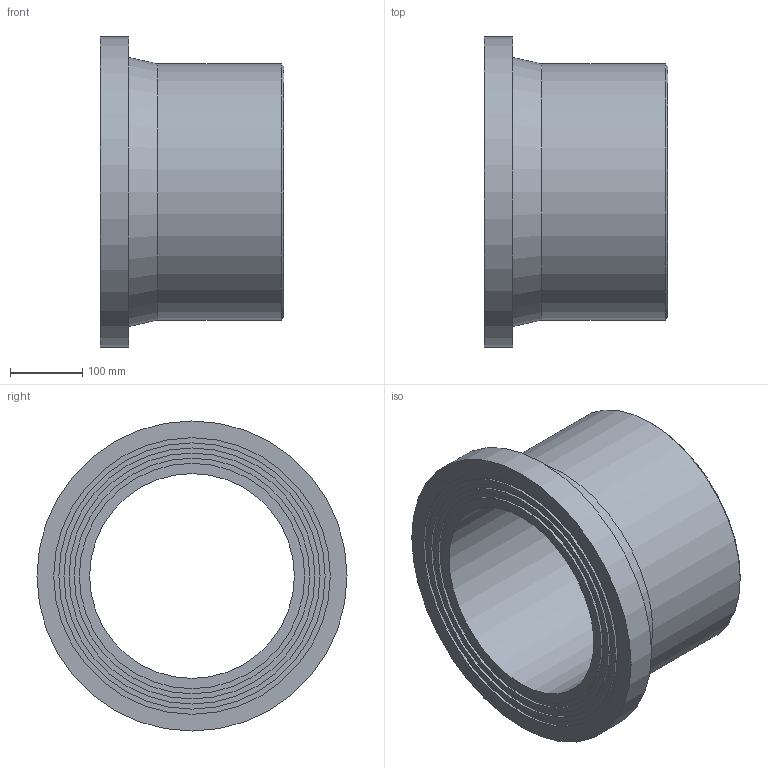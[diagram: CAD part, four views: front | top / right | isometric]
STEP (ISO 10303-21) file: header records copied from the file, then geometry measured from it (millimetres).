
FILE_DESCRIPTION(/* description */ ('Stub Flange 355'),/* implementation_level */ '2;1');
FILE_NAME(/* name */ 'C:\Dropbox\KIMPROJECTS-Inventor\99-16-3568-Processing\ElectroFusion Fittings\31.03.19\490207\490207355.ipt.stp',/* time_stamp */ '2019-03-31T18:57:55+03:00',/* author */ ('Кирилл'),/* organization */ (''),/* preprocessor_version */ 'ST-DEVELOPER v15.6',/* originating_system */ 'Autodesk Inventor 2015',/* authorisation */ '');
FILE_SCHEMA (('AUTOMOTIVE_DESIGN { 1 0 10303 214 3 1 1 }'));
Length unit declared in the file: millimetre
Products named in the file (1): 490207355
Bounding box: 255 x 430 x 430 mm (x, y, z)
Volume: 11050474.4 mm3; surface area: 698004.7 mm2
Topology: 1 solids, 1 shells, 20 faces, 31 edges, 20 vertices
Faces by surface type: cylinder 9, plane 9, cone 2
Full cylindrical faces by diameter (mm): 284 x1, 312.4 x1, 326.6 x1, 340.8 x1, 355 x2, 369.2 x1, 383.4 x1, 430 x1
Entity records: 432 total; most frequent: DIRECTION 82, CARTESIAN_POINT 61, AXIS2_PLACEMENT_3D 41, EDGE_LOOP 40, ORIENTED_EDGE 40, FACE_BOUND 20, FACE_OUTER_BOUND 20, CIRCLE 20
